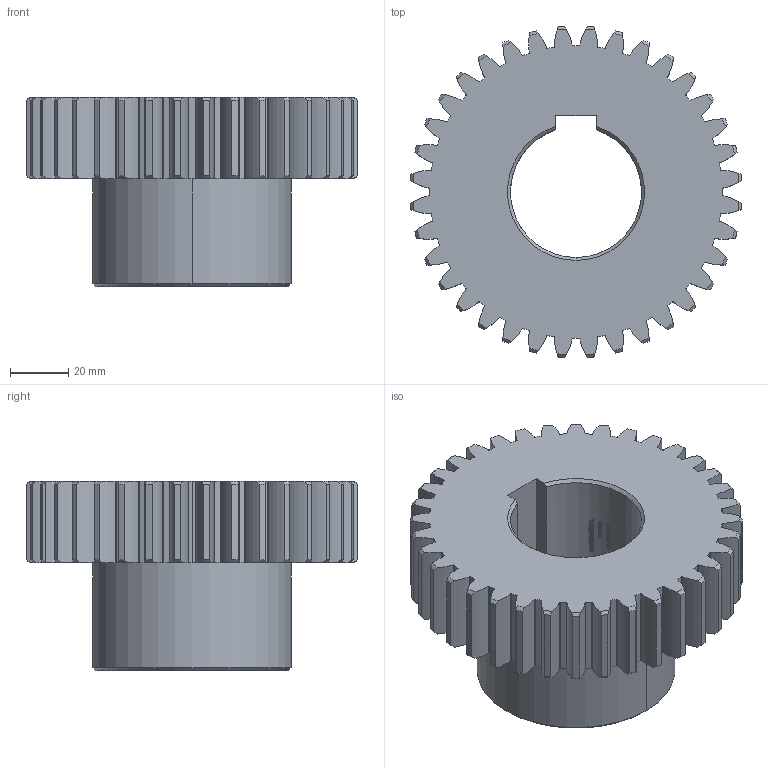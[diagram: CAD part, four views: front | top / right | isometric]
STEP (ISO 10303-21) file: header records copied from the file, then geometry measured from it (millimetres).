
FILE_DESCRIPTION (( 'STEP AP214' ), '1' );
FILE_NAME ('3M-36-45.step', '2022-04-03T03:22:39', ( 'IT Division' ), ( 'IT' ), 'SwSTEP 2.0', 'SolidWorks 2016', '' );
FILE_SCHEMA (( 'AUTOMOTIVE_DESIGN' ));
Length unit declared in the file: millimetre
Products named in the file (1): 3M-36-45
Bounding box: 113.74 x 113.74 x 65 mm (x, y, z)
Volume: 280990.7 mm3; surface area: 51184.9 mm2
Topology: 1 solids, 1 shells, 494 faces, 2773 edges, 2448 vertices
Faces by surface type: cylinder 411, cone 77, plane 6
Entity records: 34947 total; most frequent: CARTESIAN_POINT 14628, ORIENTED_EDGE 5546, DIRECTION 3109, EDGE_CURVE 2773, VERTEX_POINT 2448, AXIS2_PLACEMENT_3D 1261, B_SPLINE_CURVE_WITH_KNOTS 890, CIRCLE 766
